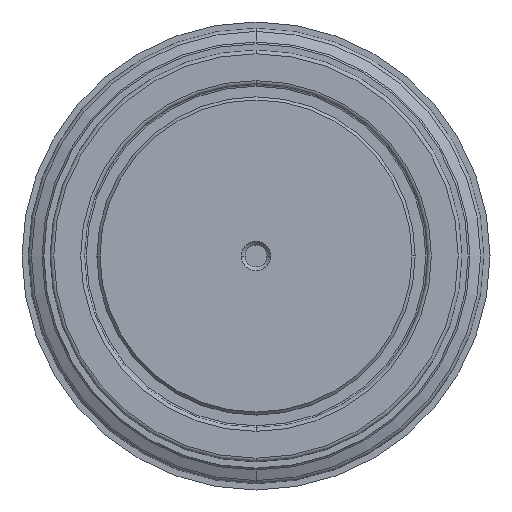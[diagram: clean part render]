
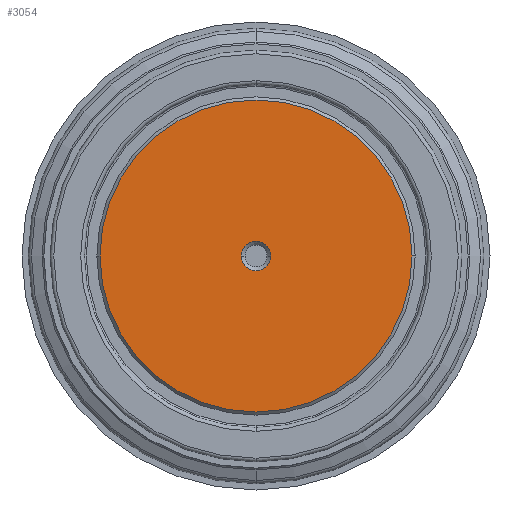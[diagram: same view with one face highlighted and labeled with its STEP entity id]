
A CAD part, front view. The second image highlights one B-rep face of the part: STEP entity #3054.
In plain terms, the highlighted planar face has unit normal (0, -1, 0).
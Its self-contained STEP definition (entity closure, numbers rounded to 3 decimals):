
#380 = ORIENTED_EDGE ( 'NONE', *, *, #1863, .T. ) ;
#425 = CARTESIAN_POINT ( 'NONE',  ( 0., -35., 0. ) ) ;
#472 = AXIS2_PLACEMENT_3D ( 'NONE', #3201, #5247, #3749 ) ;
#598 = EDGE_LOOP ( 'NONE', ( #1254, #380 ) ) ;
#733 = PLANE ( 'NONE',  #1432 ) ;
#773 = DIRECTION ( 'NONE',  ( 0., 1., 0. ) ) ;
#823 = AXIS2_PLACEMENT_3D ( 'NONE', #2255, #1806, #1100 ) ;
#959 = DIRECTION ( 'NONE',  ( 0., 1., 0. ) ) ;
#1034 = EDGE_CURVE ( 'NONE', #3062, #3367, #2495, .T. ) ;
#1100 = DIRECTION ( 'NONE',  ( -1., 0., 0. ) ) ;
#1254 = ORIENTED_EDGE ( 'NONE', *, *, #1034, .T. ) ;
#1432 = AXIS2_PLACEMENT_3D ( 'NONE', #1539, #773, #3613 ) ;
#1539 = CARTESIAN_POINT ( 'NONE',  ( -25., -35., 0. ) ) ;
#1767 = FACE_BOUND ( 'NONE', #598, .T. ) ;
#1806 = DIRECTION ( 'NONE',  ( 0., 1., 0. ) ) ;
#1816 = VERTEX_POINT ( 'NONE', #2916 ) ;
#1820 = ORIENTED_EDGE ( 'NONE', *, *, #3244, .F. ) ;
#1863 = EDGE_CURVE ( 'NONE', #3367, #3062, #4067, .T. ) ;
#1876 = EDGE_LOOP ( 'NONE', ( #2513, #1820 ) ) ;
#2255 = CARTESIAN_POINT ( 'NONE',  ( 0., -35., 0. ) ) ;
#2302 = CARTESIAN_POINT ( 'NONE',  ( -25., -35., 0. ) ) ;
#2495 = CIRCLE ( 'NONE', #472, 2.35 ) ;
#2513 = ORIENTED_EDGE ( 'NONE', *, *, #2516, .F. ) ;
#2516 = EDGE_CURVE ( 'NONE', #4524, #1816, #3390, .T. ) ;
#2807 = FACE_OUTER_BOUND ( 'NONE', #1876, .T. ) ;
#2916 = CARTESIAN_POINT ( 'NONE',  ( 25., -35., 0. ) ) ;
#3054 = ADVANCED_FACE ( 'NONE', ( #2807, #1767 ), #733, .F. ) ;
#3062 = VERTEX_POINT ( 'NONE', #4835 ) ;
#3201 = CARTESIAN_POINT ( 'NONE',  ( 0., -35., 0. ) ) ;
#3240 = DIRECTION ( 'NONE',  ( 0., 1., 0. ) ) ;
#3244 = EDGE_CURVE ( 'NONE', #1816, #4524, #3886, .T. ) ;
#3276 = DIRECTION ( 'NONE',  ( -1., 0., 0. ) ) ;
#3367 = VERTEX_POINT ( 'NONE', #5013 ) ;
#3379 = CARTESIAN_POINT ( 'NONE',  ( 0., -35., 0. ) ) ;
#3390 = CIRCLE ( 'NONE', #5137, 25. ) ;
#3613 = DIRECTION ( 'NONE',  ( -1., 0., 0. ) ) ;
#3749 = DIRECTION ( 'NONE',  ( -1., 0., 0. ) ) ;
#3886 = CIRCLE ( 'NONE', #4230, 25. ) ;
#4067 = CIRCLE ( 'NONE', #823, 2.35 ) ;
#4169 = DIRECTION ( 'NONE',  ( -1., 0., 0. ) ) ;
#4230 = AXIS2_PLACEMENT_3D ( 'NONE', #3379, #959, #4169 ) ;
#4524 = VERTEX_POINT ( 'NONE', #2302 ) ;
#4835 = CARTESIAN_POINT ( 'NONE',  ( 2.35, -35., 0. ) ) ;
#5013 = CARTESIAN_POINT ( 'NONE',  ( -2.35, -35., 0. ) ) ;
#5137 = AXIS2_PLACEMENT_3D ( 'NONE', #425, #3240, #3276 ) ;
#5247 = DIRECTION ( 'NONE',  ( 0., 1., 0. ) ) ;
